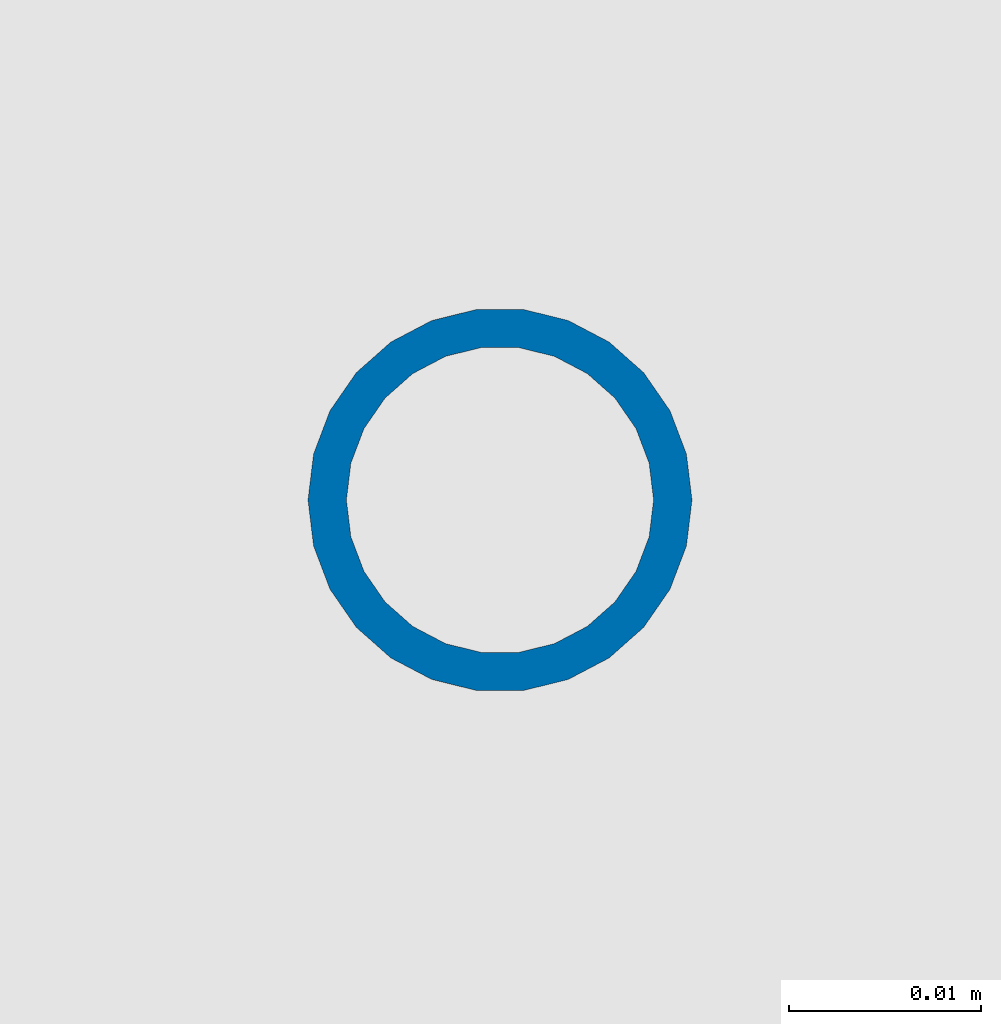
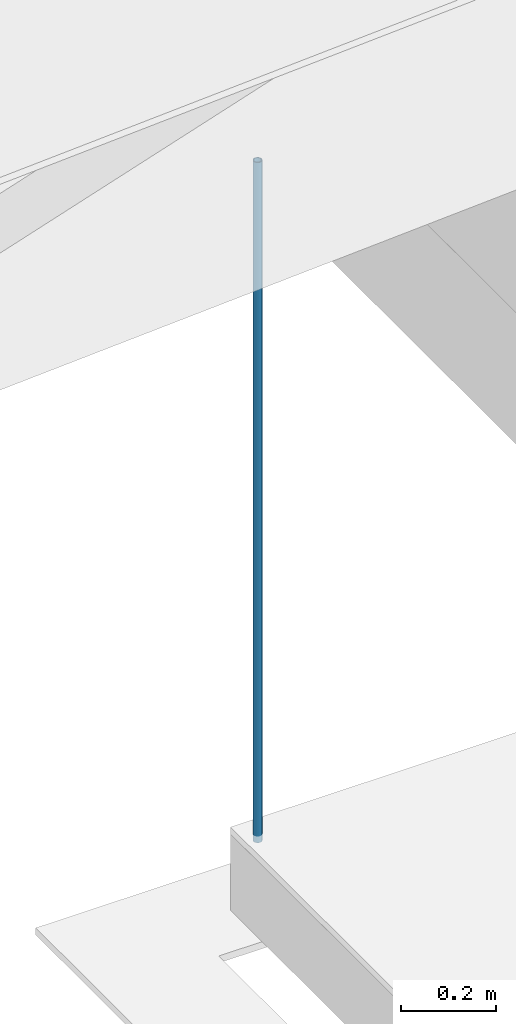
# One storey, part 2 of 66: 1 column.
"""IFC2X3 building model written with IfcOpenShell, lengths in millimetres."""

from ifc_helpers import new_model, entity, si_unit, converted_unit, derived_unit, direction, frame, frame_2d, origin, place, context, subcontext, project, spatial, hollow_circle, extrude, source, transform, mapped, material, type_object, type_shapes, element, save


model = new_model("IFC2X3")

# Units and contexts
model_context = context("Model", 3, precision=0.01, world=origin(), true_north=direction((6.12303176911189e-17, 1.0)))
body_context = subcontext(model_context, "Body", "Model", "MODEL_VIEW")
ifc_project = project(units=[si_unit("LENGTHUNIT", "METRE", prefix="MILLI"), si_unit("AREAUNIT", "SQUARE_METRE"), si_unit("VOLUMEUNIT", "CUBIC_METRE"), converted_unit("PLANEANGLEUNIT", "DEGREE", entity("IfcRatioMeasure", 0.0174532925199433), si_unit("PLANEANGLEUNIT", "RADIAN"), dimensions=[0, 0, 0, 0, 0, 0, 0]), si_unit("MASSUNIT", "GRAM", prefix="KILO"), derived_unit("MASSDENSITYUNIT", [(si_unit("MASSUNIT", "GRAM", prefix="KILO"), 1), (si_unit("LENGTHUNIT", "METRE"), -3)]), derived_unit("MOMENTOFINERTIAUNIT", [(si_unit("LENGTHUNIT", "METRE"), 4)]), si_unit("TIMEUNIT", "SECOND"), si_unit("FREQUENCYUNIT", "HERTZ"), si_unit("THERMODYNAMICTEMPERATUREUNIT", "DEGREE_CELSIUS"), derived_unit("THERMALTRANSMITTANCEUNIT", [(si_unit("MASSUNIT", "GRAM", prefix="KILO"), 1), (si_unit("THERMODYNAMICTEMPERATUREUNIT", "KELVIN"), -1), (si_unit("TIMEUNIT", "SECOND"), -3)]), derived_unit("VOLUMETRICFLOWRATEUNIT", [(si_unit("LENGTHUNIT", "METRE"), 3), (si_unit("TIMEUNIT", "SECOND"), -1)]), si_unit("ELECTRICCURRENTUNIT", "AMPERE"), si_unit("ELECTRICVOLTAGEUNIT", "VOLT"), si_unit("POWERUNIT", "WATT"), si_unit("FORCEUNIT", "NEWTON", prefix="KILO"), si_unit("ILLUMINANCEUNIT", "LUX"), si_unit("LUMINOUSFLUXUNIT", "LUMEN"), si_unit("LUMINOUSINTENSITYUNIT", "CANDELA"), derived_unit("USERDEFINED", [(si_unit("MASSUNIT", "GRAM", prefix="KILO"), -1), (si_unit("LENGTHUNIT", "METRE"), -2), (si_unit("TIMEUNIT", "SECOND"), 3), (si_unit("LUMINOUSFLUXUNIT", "LUMEN"), 1)]), derived_unit("LINEARVELOCITYUNIT", [(si_unit("LENGTHUNIT", "METRE"), 1), (si_unit("TIMEUNIT", "SECOND"), -1)]), si_unit("PRESSUREUNIT", "PASCAL"), derived_unit("USERDEFINED", [(si_unit("LENGTHUNIT", "METRE"), -2), (si_unit("MASSUNIT", "GRAM", prefix="KILO"), 1), (si_unit("TIMEUNIT", "SECOND"), -2)]), derived_unit("LINEARFORCEUNIT", [(si_unit("MASSUNIT", "GRAM", prefix="KILO"), 1), (si_unit("LENGTHUNIT", "METRE"), 1), (si_unit("TIMEUNIT", "SECOND"), -2), (si_unit("LENGTHUNIT", "METRE"), -1)]), derived_unit("PLANARFORCEUNIT", [(si_unit("MASSUNIT", "GRAM", prefix="KILO"), 1), (si_unit("LENGTHUNIT", "METRE"), 1), (si_unit("TIMEUNIT", "SECOND"), -2), (si_unit("LENGTHUNIT", "METRE"), -2)])], contexts=[model_context])

# Site, building, storey
site_placement = place(None, origin())
site = spatial("IfcSite", under=ifc_project, at=site_placement, Name="Default", CompositionType="ELEMENT")
building_placement = place(site_placement, origin())
building = spatial("IfcBuilding", under=site, at=building_placement, Name="-", CompositionType="ELEMENT")
storey_placement = place(building_placement, frame((0.0, 0.0, 3070.0)))
storey = spatial("IfcBuildingStorey", under=building, at=storey_placement, Name="01 eerste verdieping", CompositionType="ELEMENT", Elevation=3070.00000000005)

# Column
ifc_material = material(Name="NLRS_h3_staal_verzinkt")
column_type = type_object("IfcColumnType", Name="Buisprofielen_ITX(c):Buis 20x2", PredefinedType="COLUMN", material=ifc_material)
shared_shape = source(origin(), body_context, "Body", "SweptSolid", [
    extrude(hollow_circle(Radius=9.99999999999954, WallThickness=1.99999999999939, at=frame_2d((9.62538790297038e-16, -8.12617701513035e-14), x_axis=(1.0, 0.0))), frame((0.0, 0.0, 3052.0)), (0.0, 0.0, 1.0), 1748.0),
])
type_shapes(column_type, [shared_shape])
column_placement = place(storey_placement, frame((6128.47441443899, 32518.1446885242, -3070.0)))
element("IfcColumn", 1, at=column_placement, inside=storey, type_object=column_type, material=ifc_material, Name="Buisprofielen_ITX(c):Buis 20x2", ObjectType="Buisprofielen_ITX(c):Buis 20x2", context=body_context, shape_type="MappedRepresentation", body=[
    mapped(shared_shape, transform((0.0, 0.0, 0.0), scale=1.0)),
])

save(model, "model.ifc")
